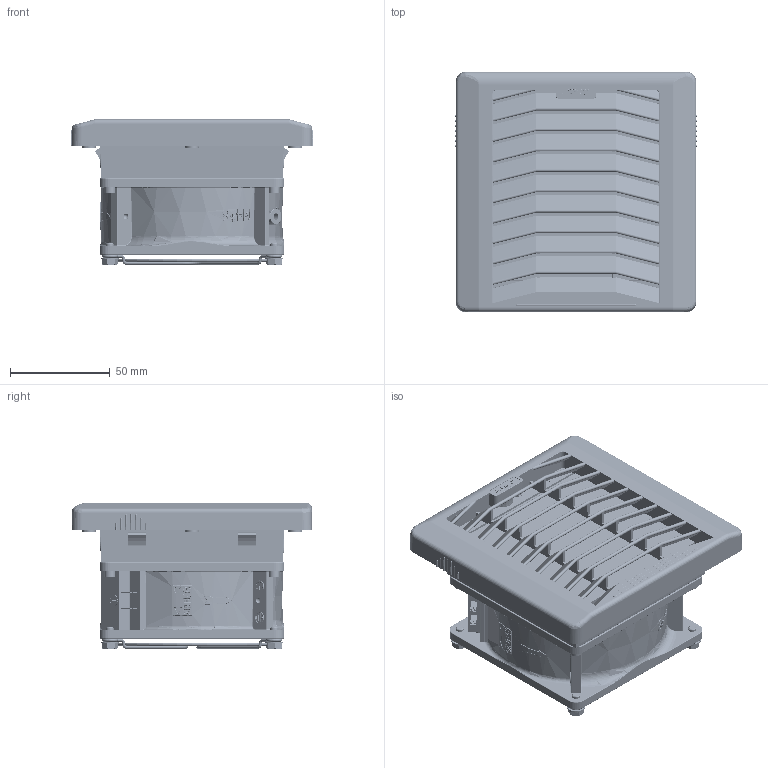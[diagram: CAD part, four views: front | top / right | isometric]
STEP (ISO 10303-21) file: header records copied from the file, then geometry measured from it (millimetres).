
FILE_DESCRIPTION(/* description */ (''),/* implementation_level */ '2;1');
FILE_NAME(/* name */ 'D:\Котлубовский\Впускные решётки\KIPVENT-100.11.230\KIPVENT-100.11.230 Решётка в сборе.stp',/* time_stamp */ '2022-03-17T17:23:01+07:00',/* author */ ('YURY_'),/* organization */ (''),/* preprocessor_version */ 'ST-DEVELOPER v17.2',/* originating_system */ 'Autodesk Inventor 2019',/* authorisation */ '');
FILE_SCHEMA (('AUTOMOTIVE_DESIGN { 1 0 10303 214 3 1 1 }'));
Products named in the file (18): KIPVENT-100.11.230 Решётка 
в сборе; VENT-9238.220VAC.5MSHB Вентилятор 
в сборе; Корпус VENT-9238.220VAC.5MS
HB; Провод 9238; Короб штекера 
VENT-9238.220VAC.5MSHB; Винт 2.M3-6gx9 ГОСТ 
17475-80; Планка штекера; Крыльчатка VENT
-9238.220VAC.5MSHB; Табличка VENT-9238.22
0VAC.7MSHB; KIPVENT-100.01.300 Выпускная решётка 
в сборе; KIPVENT-100.01.300 Корпус; KIPVENT-100.01.300 Крышка; KIPVENT-100.01.300 Фильтр; KIPVENT-100.01.300 Заглушка; VENT-92; Болт M4-6gx8 ГОСТ 
7805-70; Шайба 4 ГОСТ 
11371-78; Винт M3-6gx10 ГОСТ 
11738-84
Assembly tree (27 placements, depth 3):
  KIPVENT-100.11.230 Решётка 
в сборе
    VENT-9238.220VAC.5MSHB Вентилятор 
в сборе
      Корпус VENT-9238.220VAC.5MS
HB
      Провод 9238
      Короб штекера 
VENT-9238.220VAC.5MSHB
      Винт 2.M3-6gx9 ГОСТ 
17475-80
      Планка штекера  x2
      Крыльчатка VENT
-9238.220VAC.5MSHB
      Табличка VENT-9238.22
0VAC.7MSHB
    KIPVENT-100.01.300 Выпускная решётка 
в сборе
      KIPVENT-100.01.300 Корпус
      KIPVENT-100.01.300 Крышка
      KIPVENT-100.01.300 Фильтр
      KIPVENT-100.01.300 Заглушка
    VENT-92
    Болт M4-6gx8 ГОСТ 
7805-70  x4
    Шайба 4 ГОСТ 
11371-78  x4
    Винт M3-6gx10 ГОСТ 
11738-84  x4
Bounding box: 121.8 x 120.7 x 73.2 mm (x, y, z)
Volume: 298906.3 mm3; surface area: 200917.9 mm2
Topology: 33 solids, 33 shells, 10024 faces, 25058 edges, 15530 vertices
Faces by surface type: bspline 3902, plane 3598, cylinder 1499, torus 477, sphere 322, cone 226
Full cylindrical faces by diameter (mm): 0.01 x1, 1 x2, 1.5 x23, 2.401 x1, 2.5 x1, 3 x9, 3.2 x1, 3.242 x12, 3.3 x2, 4 x4, 4.1 x8, 4.3 x4, 5.2 x2, 5.5 x4, 5.6 x1, 5.8 x4, 6 x2, 9 x4, 43 x1, 50 x1, 58.5 x1, 58.8 x1, 60 x1
Entity records: 361552 total; most frequent: CARTESIAN_POINT 147273, ORIENTED_EDGE 49214, DIRECTION 35051, EDGE_CURVE 24607, VERTEX_POINT 15307, LINE 11693, VECTOR 11693, AXIS2_PLACEMENT_3D 11679
